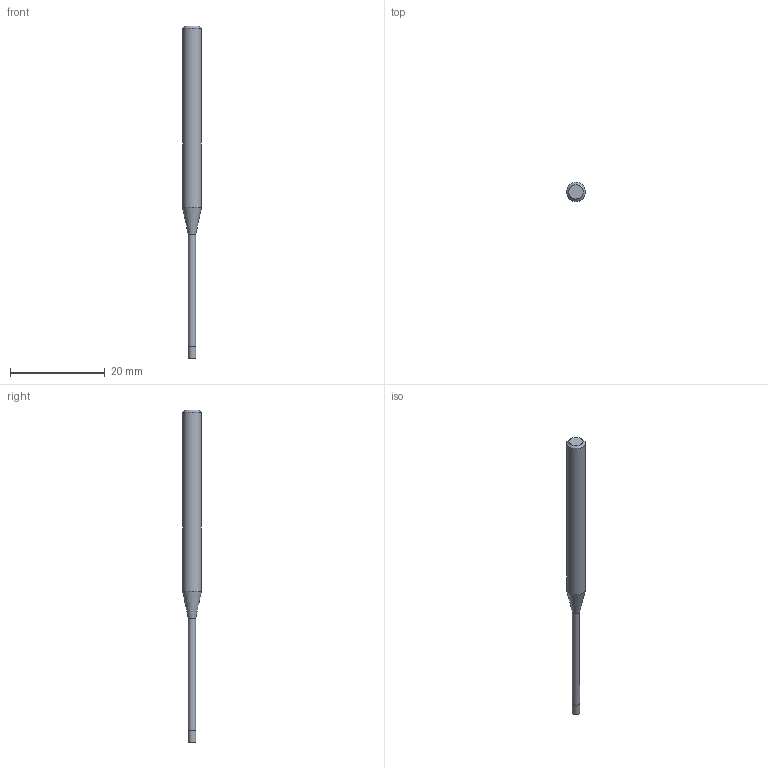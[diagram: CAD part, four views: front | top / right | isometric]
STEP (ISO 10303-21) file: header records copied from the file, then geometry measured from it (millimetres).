
FILE_DESCRIPTION((''),'2;1');
FILE_NAME('C:\Users\nsx150\AppData\Local\Temp\Mastercam 2021\17T8Q8S9EB\TEMP.step','2021-04-21T16:15:11',(''),(''),'STEP Write','Mastercam 2021 ... CNC Software, Inc.','');
FILE_SCHEMA(('AUTOMOTIVE_DESIGN'));
Length unit declared in the file: millimetre
Products named in the file (1): None
Bounding box: 4 x 4 x 70 mm (x, y, z)
Volume: 565.5 mm3; surface area: 673.3 mm2
Topology: 2 solids, 2 shells, 9 faces, 12 edges, 7 vertices
Faces by surface type: plane 4, cylinder 3, cone 2
Full cylindrical faces by diameter (mm): 1.55 x1, 1.6 x1, 4 x1
Entity records: 211 total; most frequent: DIRECTION 36, CARTESIAN_POINT 25, AXIS2_PLACEMENT_3D 18, ORIENTED_EDGE 14, EDGE_LOOP 14, STYLED_ITEM 12, ADVANCED_FACE 9, FACE_BOUND 8
